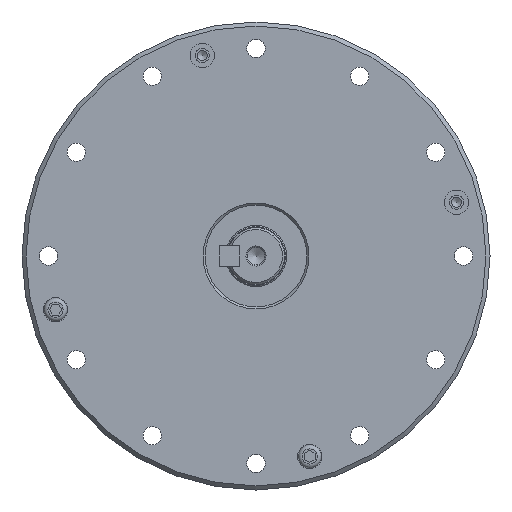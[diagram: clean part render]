
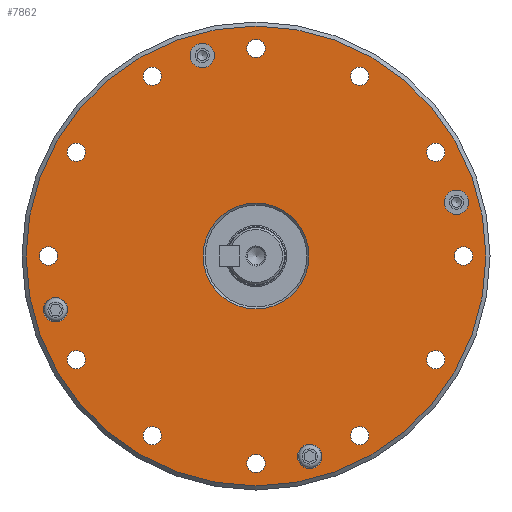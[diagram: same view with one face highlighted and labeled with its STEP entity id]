
A CAD part, front view. The second image highlights one B-rep face of the part: STEP entity #7862.
In plain terms, the highlighted planar face has unit normal (0, -1, 0).
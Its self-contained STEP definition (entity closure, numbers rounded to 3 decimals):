
#740=PLANE('',#10938);
#1022=FACE_OUTER_BOUND('',#2162,.T.);
#2161=EDGE_LOOP('',(#3627));
#2162=EDGE_LOOP('',(#3628));
#2163=EDGE_LOOP('',(#3629));
#2164=EDGE_LOOP('',(#3630));
#2165=EDGE_LOOP('',(#3631));
#2166=EDGE_LOOP('',(#3632));
#2167=EDGE_LOOP('',(#3633));
#2168=EDGE_LOOP('',(#3634));
#2169=EDGE_LOOP('',(#3635));
#2170=EDGE_LOOP('',(#3636));
#2171=EDGE_LOOP('',(#3637));
#2172=EDGE_LOOP('',(#3638));
#2173=EDGE_LOOP('',(#3639));
#2174=EDGE_LOOP('',(#3640));
#2175=EDGE_LOOP('',(#3641));
#2176=EDGE_LOOP('',(#3642));
#2177=EDGE_LOOP('',(#3643));
#2178=EDGE_LOOP('',(#3644));
#3627=ORIENTED_EDGE('',*,*,#5435,.T.);
#3628=ORIENTED_EDGE('',*,*,#5436,.T.);
#3629=ORIENTED_EDGE('',*,*,#5396,.T.);
#3630=ORIENTED_EDGE('',*,*,#5400,.T.);
#3631=ORIENTED_EDGE('',*,*,#5404,.T.);
#3632=ORIENTED_EDGE('',*,*,#5437,.T.);
#3633=ORIENTED_EDGE('',*,*,#5405,.F.);
#3634=ORIENTED_EDGE('',*,*,#5407,.F.);
#3635=ORIENTED_EDGE('',*,*,#5409,.F.);
#3636=ORIENTED_EDGE('',*,*,#5411,.F.);
#3637=ORIENTED_EDGE('',*,*,#5413,.F.);
#3638=ORIENTED_EDGE('',*,*,#5415,.F.);
#3639=ORIENTED_EDGE('',*,*,#5417,.F.);
#3640=ORIENTED_EDGE('',*,*,#5419,.F.);
#3641=ORIENTED_EDGE('',*,*,#5421,.F.);
#3642=ORIENTED_EDGE('',*,*,#5423,.F.);
#3643=ORIENTED_EDGE('',*,*,#5425,.F.);
#3644=ORIENTED_EDGE('',*,*,#5438,.F.);
#5396=EDGE_CURVE('',#9723,#9723,#6407,.T.);
#5400=EDGE_CURVE('',#9727,#9727,#6411,.T.);
#5404=EDGE_CURVE('',#9731,#9731,#6415,.T.);
#5405=EDGE_CURVE('',#9732,#9732,#6416,.T.);
#5407=EDGE_CURVE('',#9734,#9734,#6418,.T.);
#5409=EDGE_CURVE('',#9736,#9736,#6420,.T.);
#5411=EDGE_CURVE('',#9738,#9738,#6422,.T.);
#5413=EDGE_CURVE('',#9740,#9740,#6424,.T.);
#5415=EDGE_CURVE('',#9742,#9742,#6426,.T.);
#5417=EDGE_CURVE('',#9744,#9744,#6428,.T.);
#5419=EDGE_CURVE('',#9746,#9746,#6430,.T.);
#5421=EDGE_CURVE('',#9748,#9748,#6432,.T.);
#5423=EDGE_CURVE('',#9750,#9750,#6434,.T.);
#5425=EDGE_CURVE('',#9752,#9752,#6436,.T.);
#5435=EDGE_CURVE('',#9762,#9762,#6446,.T.);
#5436=EDGE_CURVE('',#9763,#9763,#6447,.T.);
#5437=EDGE_CURVE('',#9764,#9764,#6448,.T.);
#5438=EDGE_CURVE('',#9765,#9765,#6449,.T.);
#6407=CIRCLE('',#10874,3.);
#6411=CIRCLE('',#10881,3.);
#6415=CIRCLE('',#10888,3.);
#6416=CIRCLE('',#10890,2.25);
#6418=CIRCLE('',#10893,2.25);
#6420=CIRCLE('',#10896,2.25);
#6422=CIRCLE('',#10899,2.25);
#6424=CIRCLE('',#10902,2.25);
#6426=CIRCLE('',#10905,2.25);
#6428=CIRCLE('',#10908,2.25);
#6430=CIRCLE('',#10911,2.25);
#6432=CIRCLE('',#10914,2.25);
#6434=CIRCLE('',#10917,2.25);
#6436=CIRCLE('',#10920,2.25);
#6446=CIRCLE('',#10934,13.);
#6447=CIRCLE('',#10935,56.5);
#6448=CIRCLE('',#10936,3.);
#6449=CIRCLE('',#10937,2.25);
#7862=ADVANCED_FACE('',(#8792,#1022,#8793,#8794,#8795,#8796,#8797,#8798,
#8799,#8800,#8801,#8802,#8803,#8804,#8805,#8806,#8807,#8808),#740,.T.);
#8792=FACE_BOUND('',#2161,.T.);
#8793=FACE_BOUND('',#2163,.T.);
#8794=FACE_BOUND('',#2164,.T.);
#8795=FACE_BOUND('',#2165,.T.);
#8796=FACE_BOUND('',#2166,.T.);
#8797=FACE_BOUND('',#2167,.T.);
#8798=FACE_BOUND('',#2168,.T.);
#8799=FACE_BOUND('',#2169,.T.);
#8800=FACE_BOUND('',#2170,.T.);
#8801=FACE_BOUND('',#2171,.T.);
#8802=FACE_BOUND('',#2172,.T.);
#8803=FACE_BOUND('',#2173,.T.);
#8804=FACE_BOUND('',#2174,.T.);
#8805=FACE_BOUND('',#2175,.T.);
#8806=FACE_BOUND('',#2176,.T.);
#8807=FACE_BOUND('',#2177,.T.);
#8808=FACE_BOUND('',#2178,.T.);
#9723=VERTEX_POINT('',#16073);
#9727=VERTEX_POINT('',#16084);
#9731=VERTEX_POINT('',#16095);
#9732=VERTEX_POINT('',#16098);
#9734=VERTEX_POINT('',#16103);
#9736=VERTEX_POINT('',#16108);
#9738=VERTEX_POINT('',#16113);
#9740=VERTEX_POINT('',#16118);
#9742=VERTEX_POINT('',#16123);
#9744=VERTEX_POINT('',#16128);
#9746=VERTEX_POINT('',#16133);
#9748=VERTEX_POINT('',#16138);
#9750=VERTEX_POINT('',#16143);
#9752=VERTEX_POINT('',#16148);
#9762=VERTEX_POINT('',#16172);
#9763=VERTEX_POINT('',#16174);
#9764=VERTEX_POINT('',#16176);
#9765=VERTEX_POINT('',#16178);
#10874=AXIS2_PLACEMENT_3D('',#16072,#12909,#12910);
#10881=AXIS2_PLACEMENT_3D('',#16083,#12923,#12924);
#10888=AXIS2_PLACEMENT_3D('',#16094,#12937,#12938);
#10890=AXIS2_PLACEMENT_3D('',#16097,#12941,#12942);
#10893=AXIS2_PLACEMENT_3D('',#16102,#12947,#12948);
#10896=AXIS2_PLACEMENT_3D('',#16107,#12953,#12954);
#10899=AXIS2_PLACEMENT_3D('',#16112,#12959,#12960);
#10902=AXIS2_PLACEMENT_3D('',#16117,#12965,#12966);
#10905=AXIS2_PLACEMENT_3D('',#16122,#12971,#12972);
#10908=AXIS2_PLACEMENT_3D('',#16127,#12977,#12978);
#10911=AXIS2_PLACEMENT_3D('',#16132,#12983,#12984);
#10914=AXIS2_PLACEMENT_3D('',#16137,#12989,#12990);
#10917=AXIS2_PLACEMENT_3D('',#16142,#12995,#12996);
#10920=AXIS2_PLACEMENT_3D('',#16147,#13001,#13002);
#10934=AXIS2_PLACEMENT_3D('',#16171,#13029,#13030);
#10935=AXIS2_PLACEMENT_3D('',#16173,#13031,#13032);
#10936=AXIS2_PLACEMENT_3D('',#16175,#13033,#13034);
#10937=AXIS2_PLACEMENT_3D('',#16177,#13035,#13036);
#10938=AXIS2_PLACEMENT_3D('',#16179,#13037,#13038);
#12909=DIRECTION('',(0.,1.,0.));
#12910=DIRECTION('',(1.,0.,0.));
#12923=DIRECTION('',(0.,1.,0.));
#12924=DIRECTION('',(0.,0.,-1.));
#12937=DIRECTION('',(0.,1.,0.));
#12938=DIRECTION('',(-1.,0.,0.));
#12941=DIRECTION('',(0.,-1.,0.));
#12942=DIRECTION('',(-0.5,0.,-0.866));
#12947=DIRECTION('',(0.,-1.,0.));
#12948=DIRECTION('',(-0.866,0.,-0.5));
#12953=DIRECTION('',(0.,-1.,0.));
#12954=DIRECTION('',(-1.,0.,0.));
#12959=DIRECTION('',(0.,-1.,0.));
#12960=DIRECTION('',(-0.866,0.,0.5));
#12965=DIRECTION('',(0.,-1.,0.));
#12966=DIRECTION('',(-0.5,0.,0.866));
#12971=DIRECTION('',(0.,-1.,0.));
#12972=DIRECTION('',(0.,0.,1.));
#12977=DIRECTION('',(0.,-1.,0.));
#12978=DIRECTION('',(0.5,0.,0.866));
#12983=DIRECTION('',(0.,-1.,0.));
#12984=DIRECTION('',(0.866,0.,0.5));
#12989=DIRECTION('',(0.,-1.,0.));
#12990=DIRECTION('',(1.,0.,0.));
#12995=DIRECTION('',(0.,-1.,0.));
#12996=DIRECTION('',(0.866,0.,-0.5));
#13001=DIRECTION('',(0.,-1.,0.));
#13002=DIRECTION('',(0.5,0.,-0.866));
#13029=DIRECTION('',(0.,1.,0.));
#13030=DIRECTION('',(0.,0.,-1.));
#13031=DIRECTION('',(0.,-1.,0.));
#13032=DIRECTION('',(0.,0.,-1.));
#13033=DIRECTION('',(0.,1.,0.));
#13034=DIRECTION('',(0.,0.,1.));
#13035=DIRECTION('',(0.,-1.,0.));
#13036=DIRECTION('',(0.,0.,-1.));
#13037=DIRECTION('',(0.,-1.,0.));
#13038=DIRECTION('',(0.,0.,-1.));
#16072=CARTESIAN_POINT('',(49.262,-38.,13.2));
#16073=CARTESIAN_POINT('',(52.262,-38.,13.2));
#16083=CARTESIAN_POINT('',(13.2,-38.,-49.262));
#16084=CARTESIAN_POINT('',(13.2,-38.,-52.262));
#16094=CARTESIAN_POINT('',(-49.262,-38.,-13.2));
#16095=CARTESIAN_POINT('',(-52.262,-38.,-13.2));
#16097=CARTESIAN_POINT('',(44.167,-38.,-25.5));
#16098=CARTESIAN_POINT('',(43.042,-38.,-27.449));
#16102=CARTESIAN_POINT('',(25.5,-38.,-44.167));
#16103=CARTESIAN_POINT('',(23.551,-38.,-45.292));
#16107=CARTESIAN_POINT('',(0.,-38.,-51.));
#16108=CARTESIAN_POINT('',(-2.25,-38.,-51.));
#16112=CARTESIAN_POINT('',(-25.5,-38.,-44.167));
#16113=CARTESIAN_POINT('',(-27.449,-38.,-43.042));
#16117=CARTESIAN_POINT('',(-44.167,-38.,-25.5));
#16118=CARTESIAN_POINT('',(-45.292,-38.,-23.551));
#16122=CARTESIAN_POINT('',(-51.,-38.,0.));
#16123=CARTESIAN_POINT('',(-51.,-38.,2.25));
#16127=CARTESIAN_POINT('',(-44.167,-38.,25.5));
#16128=CARTESIAN_POINT('',(-43.042,-38.,27.449));
#16132=CARTESIAN_POINT('',(-25.5,-38.,44.167));
#16133=CARTESIAN_POINT('',(-23.551,-38.,45.292));
#16137=CARTESIAN_POINT('',(0.,-38.,51.));
#16138=CARTESIAN_POINT('',(2.25,-38.,51.));
#16142=CARTESIAN_POINT('',(25.5,-38.,44.167));
#16143=CARTESIAN_POINT('',(27.449,-38.,43.042));
#16147=CARTESIAN_POINT('',(44.167,-38.,25.5));
#16148=CARTESIAN_POINT('',(45.292,-38.,23.551));
#16171=CARTESIAN_POINT('',(0.,-38.,0.));
#16172=CARTESIAN_POINT('',(0.,-38.,-13.));
#16173=CARTESIAN_POINT('',(0.,-38.,0.));
#16174=CARTESIAN_POINT('',(0.,-38.,-56.5));
#16175=CARTESIAN_POINT('',(-13.2,-38.,49.262));
#16176=CARTESIAN_POINT('',(-13.2,-38.,52.262));
#16177=CARTESIAN_POINT('',(51.,-38.,0.));
#16178=CARTESIAN_POINT('',(51.,-38.,-2.25));
#16179=CARTESIAN_POINT('',(0.,-38.,0.));
